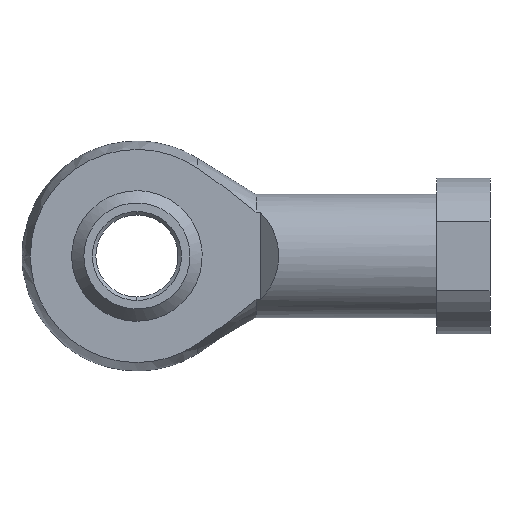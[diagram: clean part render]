
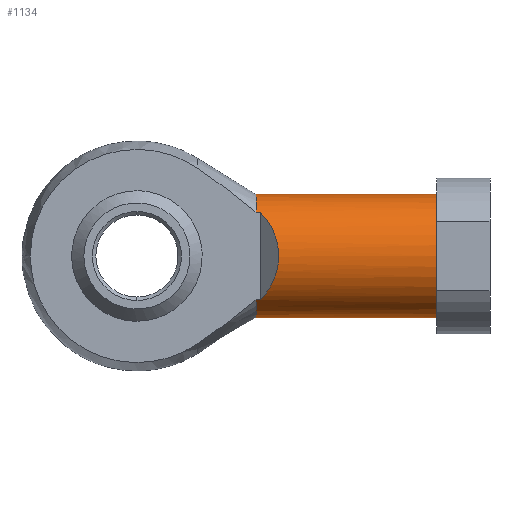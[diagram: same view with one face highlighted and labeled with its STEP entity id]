
A CAD part, front view. The second image highlights one B-rep face of the part: STEP entity #1134.
In plain terms, the highlighted cylindrical face has radius 7.5 mm (diameter 15 mm), a partial arc.
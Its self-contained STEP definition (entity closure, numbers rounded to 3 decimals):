
#1 = LINE ( 'NONE', #1146, #1000 ) ;
#71 = CIRCLE ( 'NONE', #125, 7.5 ) ;
#122 = LINE ( 'NONE', #150, #1389 ) ;
#125 = AXIS2_PLACEMENT_3D ( 'NONE', #799, #674, #540 ) ;
#136 = DIRECTION ( 'NONE',  ( -1., 0., 0. ) ) ;
#150 = CARTESIAN_POINT ( 'NONE',  ( 15., -5.25, -5.356 ) ) ;
#170 = CYLINDRICAL_SURFACE ( 'NONE', #541, 7.5 ) ;
#178 = ORIENTED_EDGE ( 'NONE', *, *, #1113, .T. ) ;
#210 = ORIENTED_EDGE ( 'NONE', *, *, #1001, .T. ) ;
#235 = EDGE_CURVE ( 'NONE', #1387, #483, #840, .T. ) ;
#262 = FACE_OUTER_BOUND ( 'NONE', #1400, .T. ) ;
#268 = VERTEX_POINT ( 'NONE', #779 ) ;
#293 = EDGE_CURVE ( 'NONE', #683, #268, #1, .T. ) ;
#303 = CARTESIAN_POINT ( 'NONE',  ( 15., -5.25, -5.356 ) ) ;
#330 = CARTESIAN_POINT ( 'NONE',  ( 18.187, -8.437, -2.232 ) ) ;
#331 = AXIS2_PLACEMENT_3D ( 'NONE', #1419, #1401, #679 ) ;
#373 = ORIENTED_EDGE ( 'NONE', *, *, #822, .T. ) ;
#411 = ORIENTED_EDGE ( 'NONE', *, *, #235, .F. ) ;
#483 = VERTEX_POINT ( 'NONE', #1284 ) ;
#503 = LINE ( 'NONE', #619, #1452 ) ;
#539 = DIRECTION ( 'NONE',  ( 1., 0., 0. ) ) ;
#540 = DIRECTION ( 'NONE',  ( 0., 0., 1. ) ) ;
#541 = AXIS2_PLACEMENT_3D ( 'NONE', #862, #136, #980 ) ;
#591 = CARTESIAN_POINT ( 'NONE',  ( 36.5, 0., 7.5 ) ) ;
#608 = DIRECTION ( 'NONE',  ( -1., 0., 0. ) ) ;
#619 = CARTESIAN_POINT ( 'NONE',  ( 25.5, 0., 7.5 ) ) ;
#622 = DIRECTION ( 'NONE',  ( -1., 0., 0. ) ) ;
#674 = DIRECTION ( 'NONE',  ( -1., 0., 0. ) ) ;
#679 = DIRECTION ( 'NONE',  ( 0., 0., 1. ) ) ;
#683 = VERTEX_POINT ( 'NONE', #967 ) ;
#684 = VERTEX_POINT ( 'NONE', #591 ) ;
#713 = AXIS2_PLACEMENT_3D ( 'NONE', #1501, #1013, #1003 ) ;
#779 = CARTESIAN_POINT ( 'NONE',  ( 15., -5.25, 5.356 ) ) ;
#781 = EDGE_CURVE ( 'NONE', #1469, #837, #122, .T. ) ;
#799 = CARTESIAN_POINT ( 'NONE',  ( 36.5, 0., 0. ) ) ;
#804 = CARTESIAN_POINT ( 'NONE',  ( 14.5, 0., 7.5 ) ) ;
#822 = EDGE_CURVE ( 'NONE', #900, #683, #1459, .T. ) ;
#837 = VERTEX_POINT ( 'NONE', #1140 ) ;
#840 = LINE ( 'NONE', #1574, #1131 ) ;
#845 = CARTESIAN_POINT ( 'NONE',  ( 18.188, -8.438, 2.232 ) ) ;
#862 = CARTESIAN_POINT ( 'NONE',  ( 25.5, 0., 0. ) ) ;
#900 = VERTEX_POINT ( 'NONE', #804 ) ;
#925 = ORIENTED_EDGE ( 'NONE', *, *, #781, .T. ) ;
#938 = ORIENTED_EDGE ( 'NONE', *, *, #1178, .T. ) ;
#966 = CARTESIAN_POINT ( 'NONE',  ( 15., -5.25, 5.356 ) ) ;
#967 = CARTESIAN_POINT ( 'NONE',  ( 14.5, -5.25, 5.356 ) ) ;
#980 = DIRECTION ( 'NONE',  ( 0., 0., 1. ) ) ;
#1000 = VECTOR ( 'NONE', #539, 1000. ) ;
#1001 = EDGE_CURVE ( 'NONE', #268, #1469, #1423, .T. ) ;
#1003 = DIRECTION ( 'NONE',  ( 0., 0., 1. ) ) ;
#1013 = DIRECTION ( 'NONE',  ( 1., 0., 0. ) ) ;
#1079 = CARTESIAN_POINT ( 'NONE',  ( 15., -5.25, -5.356 ) ) ;
#1113 = EDGE_CURVE ( 'NONE', #684, #900, #503, .T. ) ;
#1131 = VECTOR ( 'NONE', #1495, 1000. ) ;
#1134 = ADVANCED_FACE ( 'NONE', ( #262 ), #170, .T. ) ;
#1140 = CARTESIAN_POINT ( 'NONE',  ( 14.5, -5.25, -5.356 ) ) ;
#1146 = CARTESIAN_POINT ( 'NONE',  ( 25.5, -5.25, 5.356 ) ) ;
#1153 = CARTESIAN_POINT ( 'NONE',  ( 36.5, 0., -7.5 ) ) ;
#1165 = EDGE_CURVE ( 'NONE', #837, #483, #1434, .T. ) ;
#1178 = EDGE_CURVE ( 'NONE', #1387, #684, #71, .T. ) ;
#1188 = ORIENTED_EDGE ( 'NONE', *, *, #1165, .T. ) ;
#1284 = CARTESIAN_POINT ( 'NONE',  ( 14.5, 0., -7.5 ) ) ;
#1387 = VERTEX_POINT ( 'NONE', #1153 ) ;
#1389 = VECTOR ( 'NONE', #622, 1000. ) ;
#1400 = EDGE_LOOP ( 'NONE', ( #411, #938, #178, #373, #1563, #210, #925, #1188 ) ) ;
#1401 = DIRECTION ( 'NONE',  ( 1., 0., 0. ) ) ;
#1419 = CARTESIAN_POINT ( 'NONE',  ( 14.5, 0., 0. ) ) ;
#1423 =( BOUNDED_CURVE ( )  B_SPLINE_CURVE ( 3, ( #966, #845, #330, #1079 ),
 .UNSPECIFIED., .F., .F. ) 
 B_SPLINE_CURVE_WITH_KNOTS ( ( 4, 4 ),
 ( 2.346, 3.937 ),
 .UNSPECIFIED. ) 
 CURVE ( )  GEOMETRIC_REPRESENTATION_ITEM ( )  RATIONAL_B_SPLINE_CURVE ( ( 1., 0.8, 0.8, 1. ) ) 
 REPRESENTATION_ITEM ( '' )  );
#1434 = CIRCLE ( 'NONE', #331, 7.5 ) ;
#1452 = VECTOR ( 'NONE', #608, 1000. ) ;
#1459 = CIRCLE ( 'NONE', #713, 7.5 ) ;
#1469 = VERTEX_POINT ( 'NONE', #303 ) ;
#1495 = DIRECTION ( 'NONE',  ( -1., 0., 0. ) ) ;
#1501 = CARTESIAN_POINT ( 'NONE',  ( 14.5, 0., 0. ) ) ;
#1563 = ORIENTED_EDGE ( 'NONE', *, *, #293, .T. ) ;
#1574 = CARTESIAN_POINT ( 'NONE',  ( 25.5, 0., -7.5 ) ) ;
